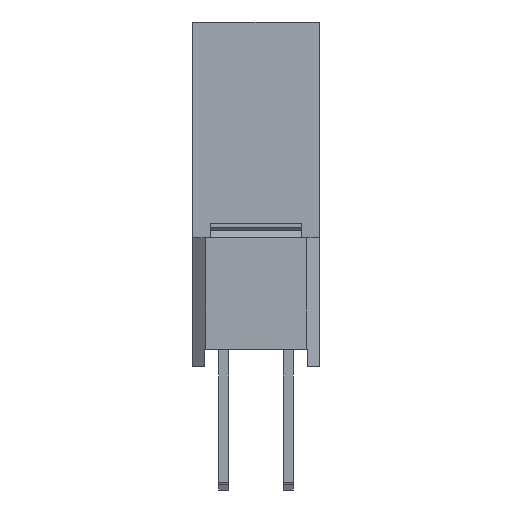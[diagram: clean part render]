
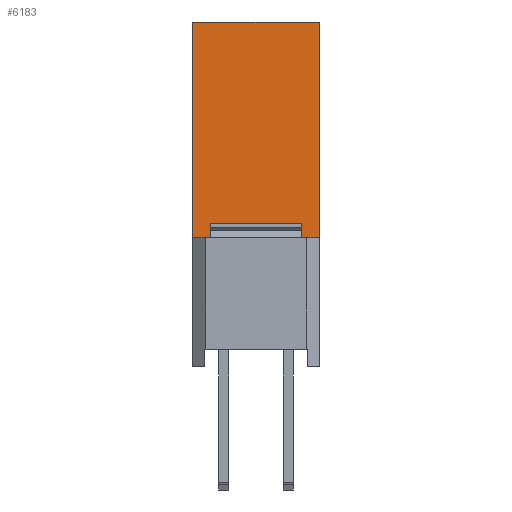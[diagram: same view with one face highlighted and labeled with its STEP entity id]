
A CAD part, left-side view. The second image highlights one B-rep face of the part: STEP entity #6183.
In plain terms, the highlighted planar face has unit normal (-1, 0, 0).
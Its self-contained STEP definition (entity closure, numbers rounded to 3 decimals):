
#168 = LINE ( 'NONE', #170, #75846 ) ;
#170 = CARTESIAN_POINT ( 'NONE',  ( -13.219, -1.826, 0. ) ) ;
#172 = DIRECTION ( 'NONE',  ( 0., -1., 0. ) ) ;
#186 = LINE ( 'NONE', #188, #75851 ) ;
#188 = CARTESIAN_POINT ( 'NONE',  ( -13.219, 3.174, 0. ) ) ;
#190 = DIRECTION ( 'NONE',  ( 0., 1., 0. ) ) ;
#3461 = EDGE_LOOP ( 'NONE', ( #17093, #17109, #17105, #17077, #17103, #17107, #17101, #17087 ) ) ;
#6183 = ADVANCED_FACE ( 'NONE', ( #23884 ), #23878, .F. ) ;
#7385 = EDGE_CURVE ( 'NONE', #17266, #10578, #28875, .T. ) ;
#10578 = VERTEX_POINT ( 'NONE', #73705 ) ;
#10833 = VERTEX_POINT ( 'NONE', #73992 ) ;
#12733 = EDGE_CURVE ( 'NONE', #44093, #17266, #168, .T. ) ;
#12736 = EDGE_CURVE ( 'NONE', #44227, #17274, #186, .T. ) ;
#17077 = ORIENTED_EDGE ( 'NONE', *, *, #22632, .T. ) ;
#17087 = ORIENTED_EDGE ( 'NONE', *, *, #7385, .T. ) ;
#17093 = ORIENTED_EDGE ( 'NONE', *, *, #31334, .F. ) ;
#17101 = ORIENTED_EDGE ( 'NONE', *, *, #12733, .T. ) ;
#17103 = ORIENTED_EDGE ( 'NONE', *, *, #31759, .F. ) ;
#17105 = ORIENTED_EDGE ( 'NONE', *, *, #12736, .F. ) ;
#17107 = ORIENTED_EDGE ( 'NONE', *, *, #22623, .F. ) ;
#17109 = ORIENTED_EDGE ( 'NONE', *, *, #31331, .T. ) ;
#17266 = VERTEX_POINT ( 'NONE', #60742 ) ;
#17274 = VERTEX_POINT ( 'NONE', #60745 ) ;
#18985 = AXIS2_PLACEMENT_3D ( 'NONE', #23880, #23886, #23887 ) ;
#22623 = EDGE_CURVE ( 'NONE', #44093, #44221, #33847, .T. ) ;
#22632 = EDGE_CURVE ( 'NONE', #44227, #44217, #33910, .T. ) ;
#23878 = PLANE ( 'NONE',  #18985 ) ;
#23880 = CARTESIAN_POINT ( 'NONE',  ( -13.219, 3.174, 8.5 ) ) ;
#23884 = FACE_OUTER_BOUND ( 'NONE', #3461, .T. ) ;
#23886 = DIRECTION ( 'NONE',  ( 1., 0., 0. ) ) ;
#23887 = DIRECTION ( 'NONE',  ( 0., 1., 0. ) ) ;
#28875 = LINE ( 'NONE', #28998, #29698 ) ;
#28998 = CARTESIAN_POINT ( 'NONE',  ( -13.219, 2.469, 8.5 ) ) ;
#29000 = DIRECTION ( 'NONE',  ( 0., 0., 1. ) ) ;
#29698 = VECTOR ( 'NONE', #29000, 1000. ) ;
#31331 = EDGE_CURVE ( 'NONE', #10833, #17274, #49505, .T. ) ;
#31334 = EDGE_CURVE ( 'NONE', #10833, #10578, #49514, .T. ) ;
#31759 = EDGE_CURVE ( 'NONE', #44221, #44217, #50476, .T. ) ;
#33847 = LINE ( 'NONE', #33850, #34602 ) ;
#33850 = CARTESIAN_POINT ( 'NONE',  ( -13.219, 3.174, 8.5 ) ) ;
#33852 = DIRECTION ( 'NONE',  ( 0., 0., 1. ) ) ;
#33910 = LINE ( 'NONE', #33913, #34621 ) ;
#33913 = CARTESIAN_POINT ( 'NONE',  ( -13.219, -1.826, 8.5 ) ) ;
#33915 = DIRECTION ( 'NONE',  ( 0., 0., 1. ) ) ;
#34602 = VECTOR ( 'NONE', #33852, 1000. ) ;
#34621 = VECTOR ( 'NONE', #33915, 1000. ) ;
#44093 = VERTEX_POINT ( 'NONE', #55149 ) ;
#44217 = VERTEX_POINT ( 'NONE', #55217 ) ;
#44221 = VERTEX_POINT ( 'NONE', #55219 ) ;
#44227 = VERTEX_POINT ( 'NONE', #55222 ) ;
#48464 = VECTOR ( 'NONE', #49507, 1000. ) ;
#48467 = VECTOR ( 'NONE', #49516, 1000. ) ;
#48787 = VECTOR ( 'NONE', #50481, 1000. ) ;
#49505 = LINE ( 'NONE', #49506, #48464 ) ;
#49506 = CARTESIAN_POINT ( 'NONE',  ( -13.219, -1.121, 8.5 ) ) ;
#49507 = DIRECTION ( 'NONE',  ( 0., 0., -1. ) ) ;
#49514 = LINE ( 'NONE', #49515, #48467 ) ;
#49515 = CARTESIAN_POINT ( 'NONE',  ( -13.219, 3.174, 0.57 ) ) ;
#49516 = DIRECTION ( 'NONE',  ( 0., 1., 0. ) ) ;
#50476 = LINE ( 'NONE', #50480, #48787 ) ;
#50480 = CARTESIAN_POINT ( 'NONE',  ( -13.219, -1.826, 8.5 ) ) ;
#50481 = DIRECTION ( 'NONE',  ( 0., -1., 0. ) ) ;
#55149 = CARTESIAN_POINT ( 'NONE',  ( -13.219, 3.174, 0. ) ) ;
#55217 = CARTESIAN_POINT ( 'NONE',  ( -13.219, -1.826, 8.5 ) ) ;
#55219 = CARTESIAN_POINT ( 'NONE',  ( -13.219, 3.174, 8.5 ) ) ;
#55222 = CARTESIAN_POINT ( 'NONE',  ( -13.219, -1.826, 0. ) ) ;
#60742 = CARTESIAN_POINT ( 'NONE',  ( -13.219, 2.469, 0. ) ) ;
#60745 = CARTESIAN_POINT ( 'NONE',  ( -13.219, -1.121, 0. ) ) ;
#73705 = CARTESIAN_POINT ( 'NONE',  ( -13.219, 2.469, 0.57 ) ) ;
#73992 = CARTESIAN_POINT ( 'NONE',  ( -13.219, -1.121, 0.57 ) ) ;
#75846 = VECTOR ( 'NONE', #172, 1000. ) ;
#75851 = VECTOR ( 'NONE', #190, 1000. ) ;
